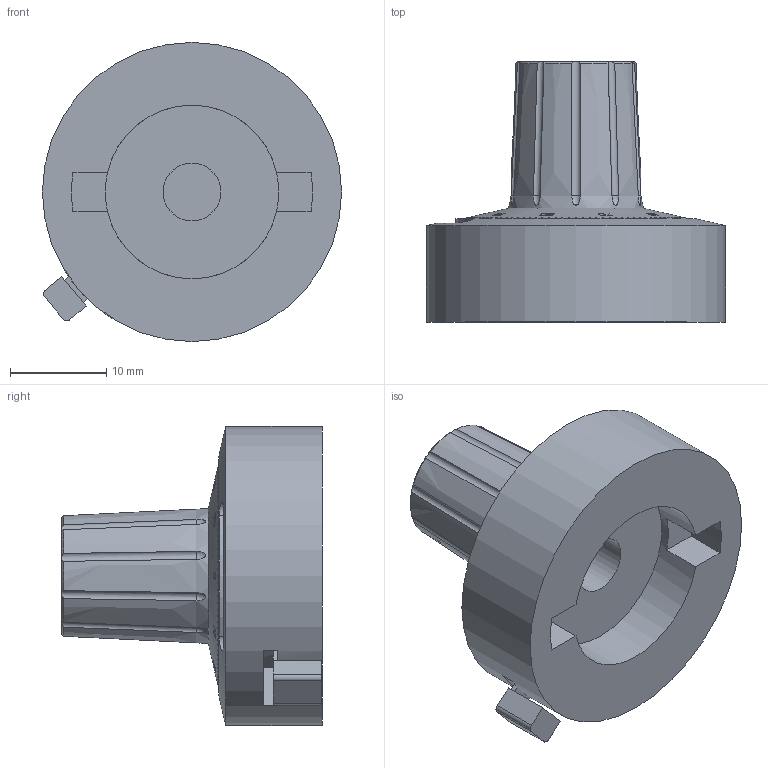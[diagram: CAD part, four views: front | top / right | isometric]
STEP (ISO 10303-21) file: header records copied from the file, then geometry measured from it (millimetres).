
FILE_DESCRIPTION (( 'STEP AP214' ), '1' );
FILE_NAME ('MKT-Dummy.STEP', '2019-05-17T07:17:28', ( '' ), ( '' ), 'SwSTEP 2.0', 'SolidWorks 2017', '' );
FILE_SCHEMA (( 'AUTOMOTIVE_DESIGN' ));
Length unit declared in the file: millimetre
Products named in the file (1): MKT-Dummy
Bounding box: 31 x 27 x 31 mm (x, y, z)
Volume: 8394.1 mm3; surface area: 4045.3 mm2
Topology: 1 solids, 1 shells, 817 faces, 2127 edges, 1351 vertices
Faces by surface type: plane 601, bspline 153, cone 29, cylinder 24, torus 10
Full cylindrical faces by diameter (mm): 6 x1, 10 x1, 18 x1, 24.5 x1, 31 x1
Entity records: 34797 total; most frequent: CARTESIAN_POINT 16253, ORIENTED_EDGE 4224, DIRECTION 2785, EDGE_CURVE 2112, VERTEX_POINT 1345, LINE 1125, VECTOR 1125, EDGE_LOOP 863
